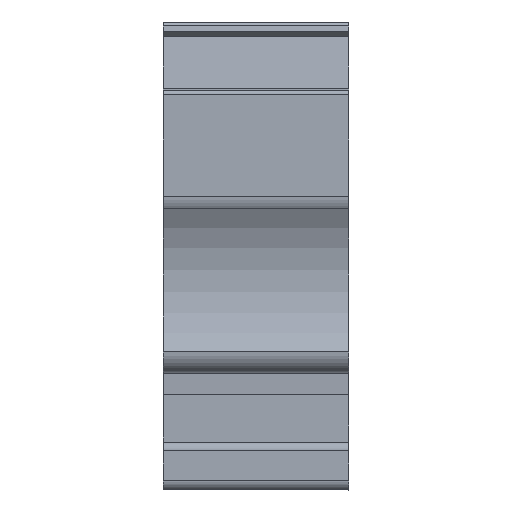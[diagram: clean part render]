
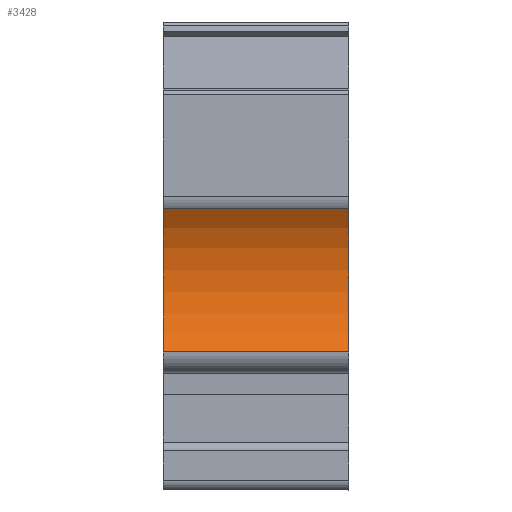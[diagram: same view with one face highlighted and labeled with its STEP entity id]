
A CAD part, front view. The second image highlights one B-rep face of the part: STEP entity #3428.
In plain terms, the highlighted cylindrical face has radius 13.2 mm (diameter 26.4 mm), a partial arc.
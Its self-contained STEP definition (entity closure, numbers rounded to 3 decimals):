
#469=CYLINDRICAL_SURFACE('',#33393,13.2);
#1690=FACE_OUTER_BOUND('',#12631,.T.);
#3428=ADVANCED_FACE('',(#1690),#469,.F.);
#6709=LINE('',#48150,#9806);
#6710=LINE('',#48152,#9807);
#9806=VECTOR('',#37852,1.);
#9807=VECTOR('',#37855,1.);
#12631=EDGE_LOOP('',(#16041,#16042,#16043,#16044));
#16041=ORIENTED_EDGE('',*,*,#28104,.F.);
#16042=ORIENTED_EDGE('',*,*,#27962,.T.);
#16043=ORIENTED_EDGE('',*,*,#28103,.T.);
#16044=ORIENTED_EDGE('',*,*,#27927,.T.);
#24692=VERTEX_POINT('',#47793);
#24693=VERTEX_POINT('',#47795);
#24723=VERTEX_POINT('',#47870);
#24724=VERTEX_POINT('',#47872);
#27927=EDGE_CURVE('',#24693,#24692,#31855,.T.);
#27962=EDGE_CURVE('',#24724,#24723,#31871,.T.);
#28103=EDGE_CURVE('',#24723,#24693,#6709,.T.);
#28104=EDGE_CURVE('',#24724,#24692,#6710,.T.);
#31855=CIRCLE('',#33289,13.2);
#31871=CIRCLE('',#33311,13.2);
#33289=AXIS2_PLACEMENT_3D('',#47794,#37553,#37554);
#33311=AXIS2_PLACEMENT_3D('',#47871,#37615,#37616);
#33393=AXIS2_PLACEMENT_3D('',#48153,#37856,#37857);
#37553=DIRECTION('',(1.,0.,0.));
#37554=DIRECTION('',(0.,0.809,-0.587));
#37615=DIRECTION('',(-1.,0.,0.));
#37616=DIRECTION('',(0.,0.838,0.546));
#37852=DIRECTION('',(1.,0.,0.));
#37855=DIRECTION('',(1.,0.,0.));
#37856=DIRECTION('',(-1.,0.,0.));
#37857=DIRECTION('',(0.,-1.,0.));
#47793=CARTESIAN_POINT('',(27.645,0.935,-26.415));
#47794=CARTESIAN_POINT('',(27.645,-10.123,-33.623));
#47795=CARTESIAN_POINT('',(27.645,0.562,-41.373));
#47870=CARTESIAN_POINT('',(8.295,0.562,-41.373));
#47871=CARTESIAN_POINT('',(8.295,-10.123,-33.623));
#47872=CARTESIAN_POINT('',(8.295,0.935,-26.415));
#48150=CARTESIAN_POINT('',(8.295,0.562,-41.373));
#48152=CARTESIAN_POINT('',(8.295,0.935,-26.415));
#48153=CARTESIAN_POINT('',(27.645,-10.123,-33.623));
